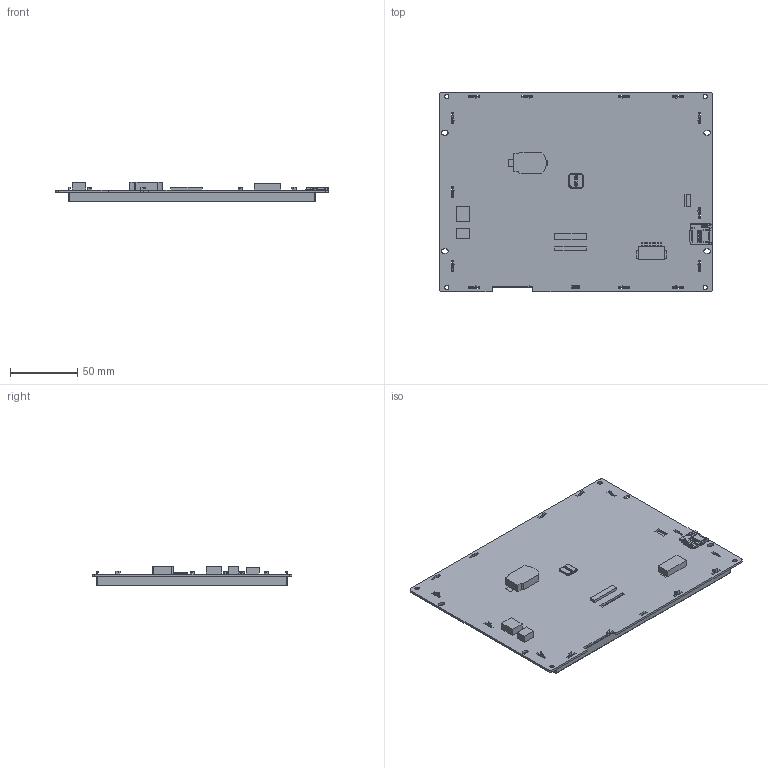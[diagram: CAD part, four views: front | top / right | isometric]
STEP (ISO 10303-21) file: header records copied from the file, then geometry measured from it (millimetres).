
FILE_DESCRIPTION(/* description */ (''),/* implementation_level */ '2;1');
FILE_NAME(/* name */ '',/* time_stamp */ '2023-04-11T10:13:10+08:00',/* author */ (''),/* organization */ (''),/* preprocessor_version */ 'ST-DEVELOPER v11',/* originating_system */ 'SIEMENS PLM Software NX 7.5',/* authorisation */ '');
FILE_SCHEMA (('AP203_CONFIGURATION_CONTROLLED_3D_DESIGN_OF_MECHANICAL_PARTS_AND_ASSEMBLIES_MIM_LF'));
Products named in the file (1): 3D-SDWb080YY97AN_stp
Bounding box: 203.02 x 148.8 x 14.81 mm (x, y, z)
Volume: 175248.9 mm3; surface area: 138294 mm2
Topology: 14 solids, 14 shells, 2316 faces, 6712 edges, 4413 vertices
Faces by surface type: plane 1845, cylinder 463, bspline 7, cone 1
Full cylindrical faces by diameter (mm): 3.2 x4
Entity records: 77536 total; most frequent: CARTESIAN_POINT 13873, ORIENTED_EDGE 13416, DIRECTION 12162, EDGE_CURVE 6708, LINE 5746, VECTOR 5746, VERTEX_POINT 4413, AXIS2_PLACEMENT_3D 3208
